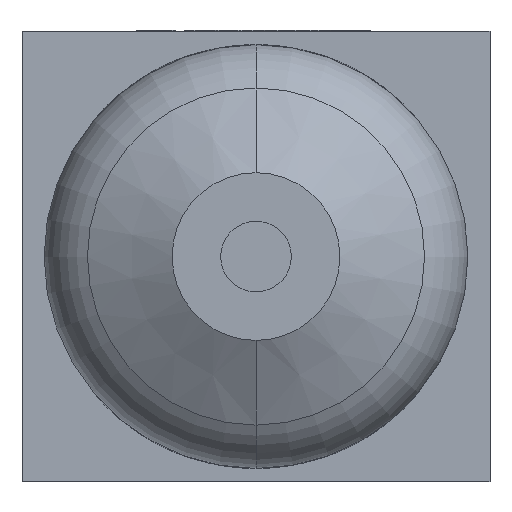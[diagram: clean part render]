
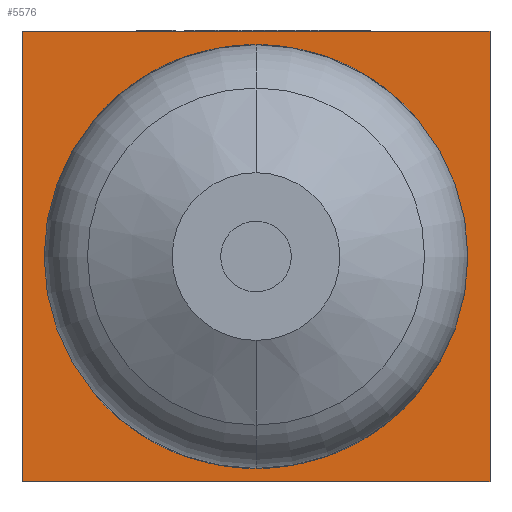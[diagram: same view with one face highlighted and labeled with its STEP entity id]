
A CAD part, front view. The second image highlights one B-rep face of the part: STEP entity #5576.
In plain terms, the highlighted planar face has unit normal (0, -1, 0).
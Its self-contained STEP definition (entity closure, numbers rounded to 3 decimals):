
#494 = CARTESIAN_POINT ( 'NONE',  ( -26.5, -25.5, -25.5 ) ) ;
#890 = CARTESIAN_POINT ( 'NONE',  ( -26.5, -25.5, 25.5 ) ) ;
#1267 = EDGE_CURVE ( 'NONE', #14694, #3711, #19638, .T. ) ;
#1331 = EDGE_CURVE ( 'NONE', #3711, #7638, #8060, .T. ) ;
#1498 = FACE_OUTER_BOUND ( 'NONE', #11476, .T. ) ;
#2051 = LINE ( 'NONE', #13610, #17979 ) ;
#2227 = ORIENTED_EDGE ( 'NONE', *, *, #4354, .F. ) ;
#3711 = VERTEX_POINT ( 'NONE', #494 ) ;
#4125 = DIRECTION ( 'NONE',  ( 1., 0., 0. ) ) ;
#4330 = CARTESIAN_POINT ( 'NONE',  ( 26.5, -25.5, 25.5 ) ) ;
#4354 = EDGE_CURVE ( 'NONE', #18961, #7638, #2051, .T. ) ;
#4939 = CARTESIAN_POINT ( 'NONE',  ( -26.5, -25.5, -25.5 ) ) ;
#5474 = EDGE_CURVE ( 'NONE', #14694, #18961, #12274, .T. ) ;
#5576 = ADVANCED_FACE ( 'NONE', ( #1498 ), #15605, .F. ) ;
#6349 = ORIENTED_EDGE ( 'NONE', *, *, #5474, .F. ) ;
#6807 = AXIS2_PLACEMENT_3D ( 'NONE', #890, #10991, #9328 ) ;
#7638 = VERTEX_POINT ( 'NONE', #8536 ) ;
#8060 = LINE ( 'NONE', #4939, #17834 ) ;
#8536 = CARTESIAN_POINT ( 'NONE',  ( 26.5, -25.5, -25.5 ) ) ;
#8839 = CARTESIAN_POINT ( 'NONE',  ( -26.5, -25.5, 25.5 ) ) ;
#8854 = DIRECTION ( 'NONE',  ( 0., 0., -1. ) ) ;
#9094 = VECTOR ( 'NONE', #9658, 1000. ) ;
#9328 = DIRECTION ( 'NONE',  ( -1., 0., 0. ) ) ;
#9658 = DIRECTION ( 'NONE',  ( 0., 0., -1. ) ) ;
#10991 = DIRECTION ( 'NONE',  ( 0., 1., 0. ) ) ;
#11088 = CARTESIAN_POINT ( 'NONE',  ( -26.5, -25.5, 25.5 ) ) ;
#11476 = EDGE_LOOP ( 'NONE', ( #15167, #2227, #6349, #16291 ) ) ;
#12274 = LINE ( 'NONE', #8839, #13565 ) ;
#13565 = VECTOR ( 'NONE', #4125, 1000. ) ;
#13610 = CARTESIAN_POINT ( 'NONE',  ( 26.5, -25.5, 25.5 ) ) ;
#14548 = CARTESIAN_POINT ( 'NONE',  ( -26.5, -25.5, 25.5 ) ) ;
#14694 = VERTEX_POINT ( 'NONE', #14548 ) ;
#15167 = ORIENTED_EDGE ( 'NONE', *, *, #1331, .T. ) ;
#15605 = PLANE ( 'NONE',  #6807 ) ;
#16291 = ORIENTED_EDGE ( 'NONE', *, *, #1267, .T. ) ;
#17834 = VECTOR ( 'NONE', #19865, 1000. ) ;
#17979 = VECTOR ( 'NONE', #8854, 1000. ) ;
#18961 = VERTEX_POINT ( 'NONE', #4330 ) ;
#19638 = LINE ( 'NONE', #11088, #9094 ) ;
#19865 = DIRECTION ( 'NONE',  ( 1., 0., 0. ) ) ;
